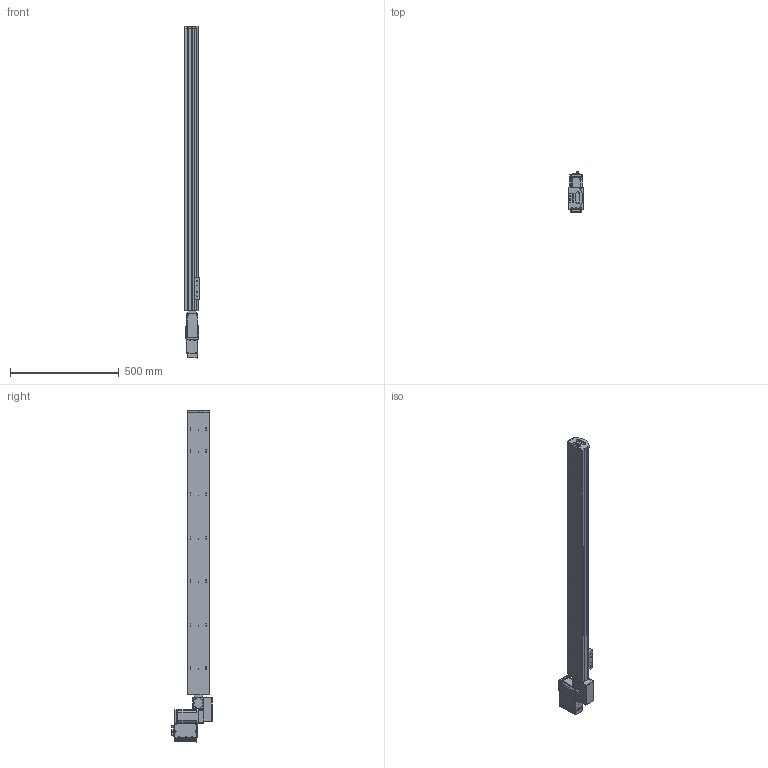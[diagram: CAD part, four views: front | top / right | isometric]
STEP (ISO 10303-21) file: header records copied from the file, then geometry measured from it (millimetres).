
FILE_DESCRIPTION (( 'STEP AP203' ), '1' );
FILE_NAME ('S10 TBN LH S1300.STEP', '2012-06-18T09:41:07', ( 'Conseil Régional Haute-Normandie' ), ( 'Conseil Régional Haute-Normandie' ), 'SwSTEP 2.0', 'SolidWorks 2010', '' );
FILE_SCHEMA (( 'CONFIG_CONTROL_DESIGN' ));
Length unit declared in the file: millimetre
Products named in the file (25): BU41 Carte Alimentation P05_3; T_X2_00F4_X0_le contre le moteur_5; Colonnette ronde_3; T_X2_00F4_X0_le fond_3; T_X2_00F4_X0_le Arri_X2_00E8_X0_re_5; palette tbn; plaque de bout s10_Default; Plaque racord_Default; S10 TBN LH S1300; Assem1_7; Colonnette_3; BU45 Carte d''axe A11_5; Moteur 60BLDC90A_3; Connecteur rond D10 3cts_5; Couvercle_3; Connecteur rond D12 4cts_5; Sub D 9cts 90_X2_00B_X0__3; Radiateur profil_X2_00E9_X0_ 100x25_3; T_X2_00F4_X0_le lat_X2_00E9_X0_rale_5; Vis TF 3 torkx_1_1; cache t皻e axe_Default; embout; renvoi LH_Default; axe 1300; cache t皻e_Default
Assembly tree (48 placements, depth 3):
  S10 TBN LH S1300
    Assem1_7
      Vis TF 3 torkx_1_1  x21
      Colonnette_3  x2
      Colonnette ronde_3
      Moteur 60BLDC90A_3
      T_X2_00F4_X0_le fond_3
      T_X2_00F4_X0_le contre le moteur_5
      BU41 Carte Alimentation P05_3
      Connecteur rond D10 3cts_5  x2
      Sub D 9cts 90_X2_00B_X0__3
      T_X2_00F4_X0_le lat_X2_00E9_X0_rale_5  x2
      Couvercle_3
      Radiateur profil_X2_00E9_X0_ 100x25_3
      BU45 Carte d''axe A11_5
      Connecteur rond D12 4cts_5
      T_X2_00F4_X0_le Arri_X2_00E8_X0_re_5
    cache t皻e_Default  x2
    cache t皻e axe_Default
    Plaque racord_Default
    axe 1300
    palette tbn
    embout
    plaque de bout s10_Default
    renvoi LH_Default
Bounding box: 66.75 x 186.1 x 1528.5 mm (x, y, z)
Volume: 7615515.1 mm3; surface area: 940075.5 mm2
Topology: 47 solids, 47 shells, 1978 faces, 5036 edges, 3275 vertices
Faces by surface type: cylinder 932, plane 877, cone 154, bspline 12, torus 3
Entity records: 44747 total; most frequent: CARTESIAN_POINT 8101, DIRECTION 7317, ORIENTED_EDGE 6652, EDGE_CURVE 3326, AXIS2_PLACEMENT_3D 2730, VERTEX_POINT 2179, VECTOR 1857, LINE 1857
